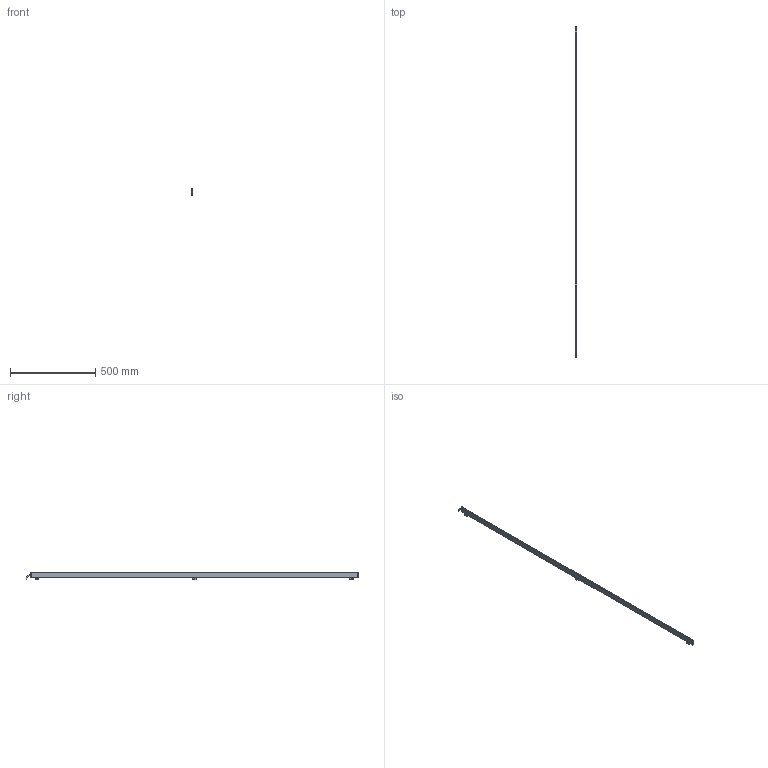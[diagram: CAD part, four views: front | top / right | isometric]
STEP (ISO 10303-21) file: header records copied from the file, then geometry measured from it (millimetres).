
FILE_DESCRIPTION (( 'STEP AP214' ), '1' );
FILE_NAME ('ILG-N-K1-1920mm.STEP', '2017-07-10T13:35:59', ( '' ), ( '' ), 'SwSTEP 2.0', 'SolidWorks 2016', '' );
FILE_SCHEMA (( 'AUTOMOTIVE_DESIGN' ));
Length unit declared in the file: millimetre
Products named in the file (1): ILG-N-K1-1920mm
Bounding box: 10.22 x 1948.25 x 42.41 mm (x, y, z)
Volume: 215843.5 mm3; surface area: 320097.5 mm2
Topology: 12 solids, 12 shells, 532 faces, 1348 edges, 836 vertices
Faces by surface type: plane 296, cylinder 162, cone 64, torus 10
Entity records: 21865 total; most frequent: CARTESIAN_POINT 2865, DIRECTION 2794, ORIENTED_EDGE 2680, EDGE_CURVE 1340, AXIS2_PLACEMENT_3D 973, LINE 848, VECTOR 848, VERTEX_POINT 836
